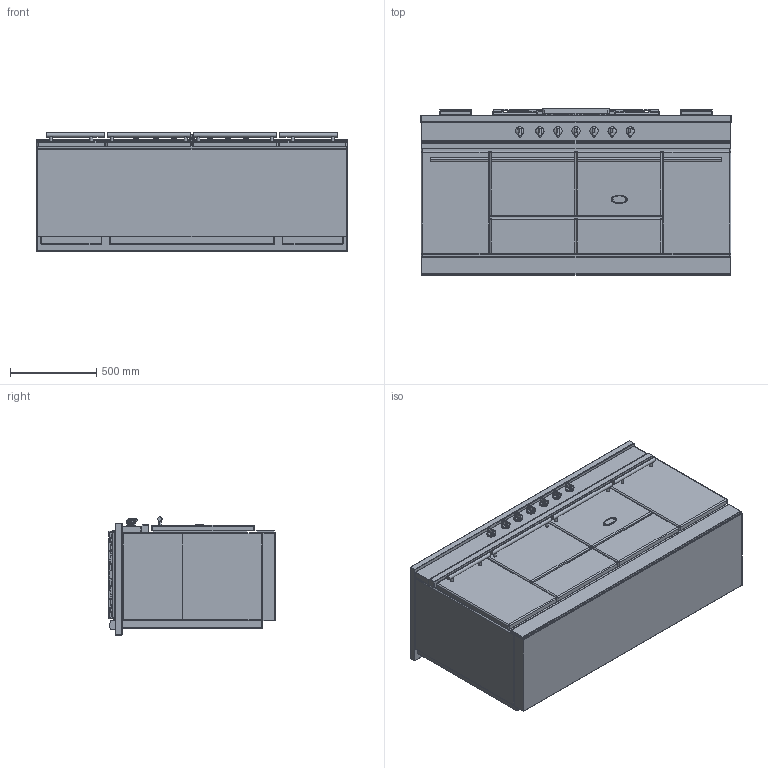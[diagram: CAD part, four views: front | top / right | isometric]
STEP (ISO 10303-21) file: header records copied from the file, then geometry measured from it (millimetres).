
FILE_DESCRIPTION((''),'2;1');
FILE_NAME('LMCF1852_ASM','2022-04-13T11:39:42',('stagiaire'),(''),'CREO PARAMETRIC BY PTC INC, 2021424','CREO PARAMETRIC BY PTC INC, 2021424','');
FILE_SCHEMA(('AP203_CONFIGURATION_CONTROLLED_3D_DESIGN_OF_MECHANICAL_PARTS_AND_ASSEMBLIES_MIM_LF { 1 0 10303 403 2 1 2 }'));
Products named in the file (22): BASE_EXPORT_CLUNY_1800_MODERN; 65064012; 19150009; 88064012_ASM; 65650001; 65049009; BASE_EXPORT_CLUNY_1800_MODERN_ASM; TABLE_1805_CLASSIQUE; 3KW; 5KW; 1_5KW; 4KW; 65062008; 65062012; 65149005; 90000549_ASM; 6537023; 90000565_ASM; CHEMINEE_2020_LG182_EXPORT_STEP; CHEMINEE_2020_LG371_EXPORT_STEP; TABLE_1805_TRADITION_ASM; LMCF1852_ASM
Assembly tree (38 placements, depth 4):
  LMCF1852_ASM
    BASE_EXPORT_CLUNY_1800_MODERN_ASM
      BASE_EXPORT_CLUNY_1800_MODERN
      88064012_ASM  x7
        65064012
        19150009
      65650001
      65049009
    TABLE_1805_TRADITION_ASM
      TABLE_1805_CLASSIQUE
      3KW  x2
      5KW
      1_5KW
      4KW
      90000549_ASM
        65062008
        65062012
        65149005  x4
      90000565_ASM  x2
        6537023
        65149005
      CHEMINEE_2020_LG182_EXPORT_STEP  x2
      CHEMINEE_2020_LG371_EXPORT_STEP  x2
Bounding box: 1805 x 967 x 687.75 mm (x, y, z)
Volume: 657537000.9 mm3; surface area: 16001283.1 mm2
Topology: 47 solids, 47 shells, 7480 faces, 20391 edges, 12953 vertices
Faces by surface type: plane 3105, cylinder 2250, bspline 1175, sphere 402, cone 263, torus 243, extrusion 42
Entity records: 211765 total; most frequent: CARTESIAN_POINT 60001, ORIENTED_EDGE 24740, DIRECTION 23048, EDGE_CURVE 12370, PRESENTATION_STYLE_ASSIGNMENT 8946, STYLED_ITEM 8946, CURVE_STYLE 8743, VECTOR 8509
